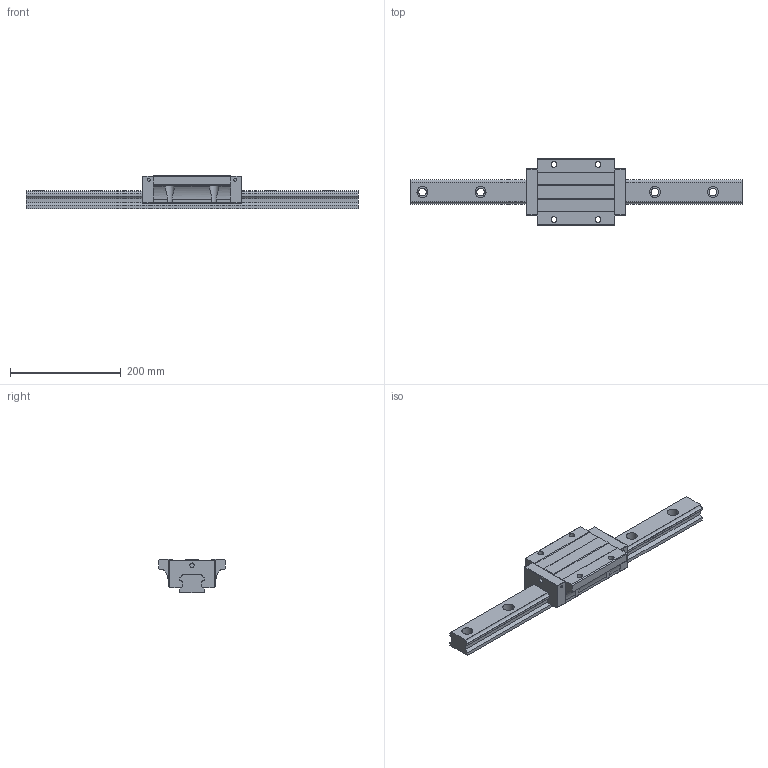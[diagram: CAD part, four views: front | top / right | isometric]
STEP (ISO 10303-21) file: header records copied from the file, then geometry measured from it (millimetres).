
FILE_DESCRIPTION (( 'STEP AP203' ), '1' );
FILE_NAME ('TRH45FE-SU.STEP', '2024-06-26T05:33:45', ( '' ), ( '' ), 'SwSTEP 2.0', 'SolidWorks 2022', '' );
FILE_SCHEMA (( 'CONFIG_CONTROL_DESIGN' ));
Length unit declared in the file: millimetre
Products named in the file (1): TRH45FE-SU
Bounding box: 600 x 120 x 60 mm (x, y, z)
Volume: 1384229.7 mm3; surface area: 184266.4 mm2
Topology: 2 solids, 2 shells, 214 faces, 582 edges, 380 vertices
Faces by surface type: cylinder 114, plane 96, sphere 4
Entity records: 7369 total; most frequent: CARTESIAN_POINT 1749, DIRECTION 1172, ORIENTED_EDGE 1156, EDGE_CURVE 578, AXIS2_PLACEMENT_3D 411, VERTEX_POINT 380, VECTOR 350, LINE 350
